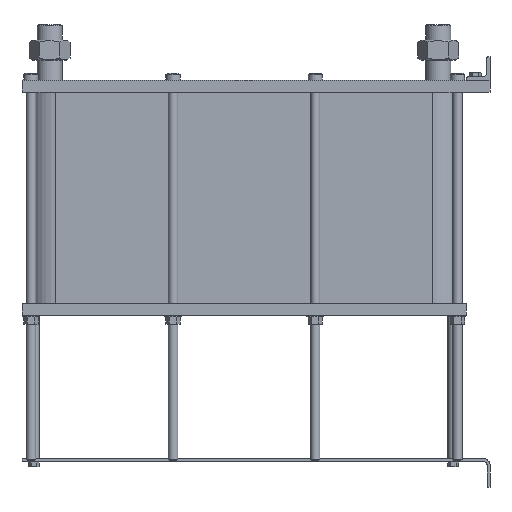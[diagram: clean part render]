
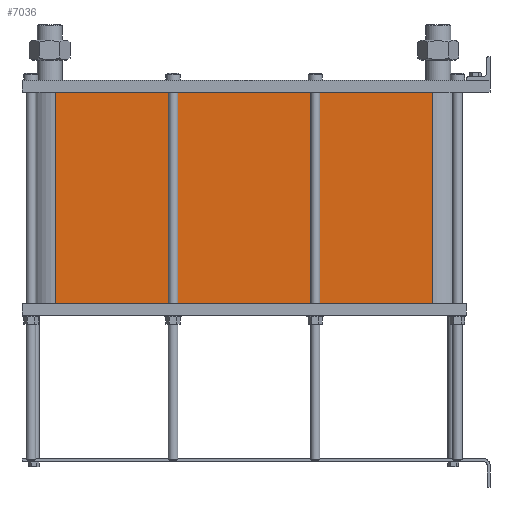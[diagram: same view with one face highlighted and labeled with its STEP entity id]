
A CAD part, left-side view. The second image highlights one B-rep face of the part: STEP entity #7036.
In plain terms, the highlighted planar face has unit normal (-1, 0, 0).
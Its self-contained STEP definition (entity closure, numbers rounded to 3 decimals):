
#999=LINE('',#15640,#1553);
#1031=LINE('',#15723,#1585);
#1032=LINE('',#15726,#1586);
#1033=LINE('',#15727,#1587);
#1553=VECTOR('',#9658,10.);
#1585=VECTOR('',#9736,10.);
#1586=VECTOR('',#9741,10.);
#1587=VECTOR('',#9742,10.);
#2117=FACE_OUTER_BOUND('',#2671,.T.);
#2671=EDGE_LOOP('',(#6246,#6247,#6248,#6249));
#3527=VERTEX_POINT('',#15634);
#3529=VERTEX_POINT('',#15638);
#3556=VERTEX_POINT('',#15720);
#3557=VERTEX_POINT('',#15722);
#4425=EDGE_CURVE('',#3529,#3527,#999,.T.);
#4466=EDGE_CURVE('',#3557,#3556,#1031,.T.);
#4468=EDGE_CURVE('',#3527,#3556,#1032,.T.);
#4469=EDGE_CURVE('',#3557,#3529,#1033,.T.);
#6246=ORIENTED_EDGE('',*,*,#4468,.F.);
#6247=ORIENTED_EDGE('',*,*,#4425,.F.);
#6248=ORIENTED_EDGE('',*,*,#4469,.F.);
#6249=ORIENTED_EDGE('',*,*,#4466,.T.);
#6608=PLANE('',#7812);
#7036=ADVANCED_FACE('',(#2117),#6608,.T.);
#7812=AXIS2_PLACEMENT_3D('',#15725,#9739,#9740);
#9658=DIRECTION('',(0.,0.,-1.));
#9736=DIRECTION('',(0.,0.,-1.));
#9739=DIRECTION('center_axis',(-1.,0.,0.));
#9740=DIRECTION('ref_axis',(0.,1.,0.));
#9741=DIRECTION('',(0.,1.,0.));
#9742=DIRECTION('',(0.,-1.,0.));
#15634=CARTESIAN_POINT('',(-72.,97.5,-356.5));
#15638=CARTESIAN_POINT('',(-72.,97.5,0.));
#15640=CARTESIAN_POINT('',(-72.,97.5,0.));
#15720=CARTESIAN_POINT('',(-72.,733.5,-356.5));
#15722=CARTESIAN_POINT('',(-72.,733.5,0.));
#15723=CARTESIAN_POINT('',(-72.,733.5,0.));
#15725=CARTESIAN_POINT('Origin',(-72.,97.5,0.));
#15726=CARTESIAN_POINT('',(-72.,256.5,-356.5));
#15727=CARTESIAN_POINT('',(-72.,733.5,0.));
